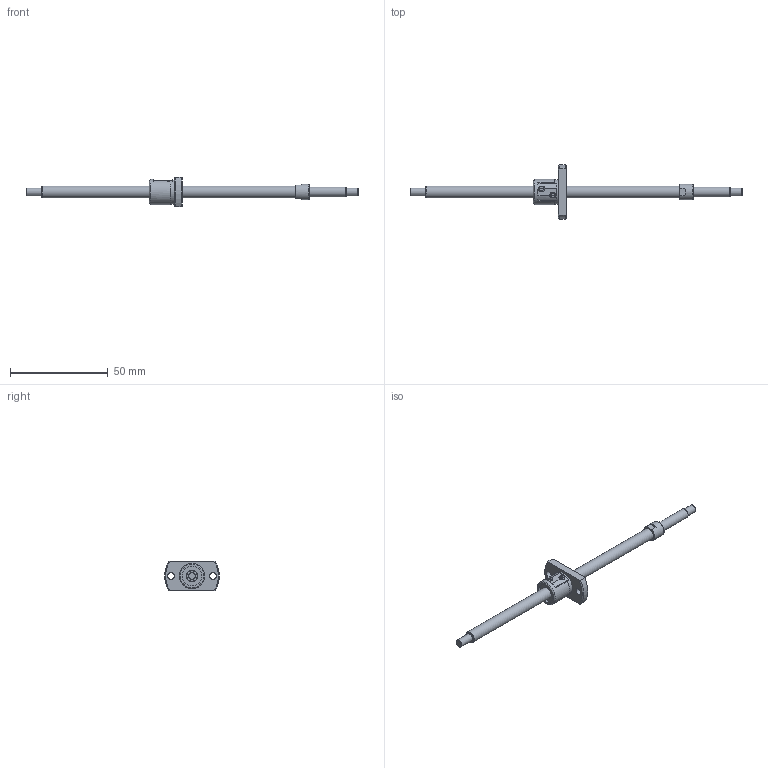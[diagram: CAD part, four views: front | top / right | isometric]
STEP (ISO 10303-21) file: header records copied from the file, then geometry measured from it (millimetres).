
FILE_DESCRIPTION(/* description */ ('STEP AP214'),/* implementation_level */ '2;1');
FILE_NAME(/* name */ 'SG0601-127R170C5C0X(55)',/* time_stamp */ '2026-07-20T20:13:50+02:00',/* author */ ('License CC BY-ND 4.0'),/* organization */ ('CADENAS'),/* preprocessor_version */ 'ST-DEVELOPER v20',/* originating_system */ 'PARTsolutions',/* authorisation */ ' ');
FILE_SCHEMA (('AUTOMOTIVE_DESIGN {1 0 10303 214 3 1 1}'));
Length unit declared in the file: millimetre
Products named in the file (3): SG0601-127R170C5C0X(55); SG0601-127R170C5C_shaft; SG0601 C5_nut
Assembly tree (2 placements, depth 2):
  SG0601-127R170C5C0X(55)
    SG0601-127R170C5C_shaft
    SG0601 C5_nut
Bounding box: 170 x 27.91 x 15 mm (x, y, z)
Volume: 7162.9 mm3; surface area: 5175.1 mm2
Topology: 2 solids, 2 shells, 74 faces, 179 edges, 118 vertices
Faces by surface type: plane 35, cylinder 24, cone 14, torus 1
Full cylindrical faces by diameter (mm): 3.4 x2, 4 x2, 5 x1, 6 x2, 8 x1, 10 x2, 12.6 x1, 13 x1
Entity records: 2087 total; most frequent: CARTESIAN_POINT 391, DIRECTION 352, ORIENTED_EDGE 292, AXIS2_PLACEMENT_3D 147, EDGE_CURVE 146, EDGE_LOOP 112, FACE_BOUND 112, VERTEX_POINT 108
